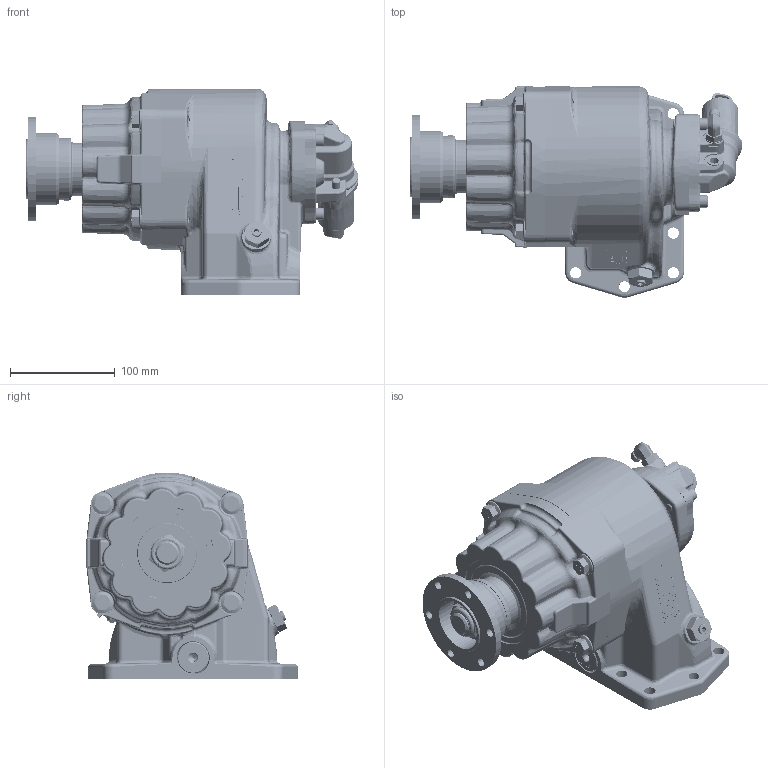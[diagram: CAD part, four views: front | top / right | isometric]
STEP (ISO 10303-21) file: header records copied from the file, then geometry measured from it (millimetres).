
FILE_DESCRIPTION(/* description */ ('PTO ASSEMBLY-871'),/* implementation_level */ '2;1');
FILE_NAME(/* name */ 'C:\CAD_Work\Designs\CHD\CHD-Unrestricted\WR-747 CAD DWG''S FOR FD\WIP\871-Series\STEP FILES & PICS\871-5AC.stp',/* time_stamp */ '2024-04-02T12:30:09+05:00',/* author */ ('GR00940517'),/* organization */ (''),/* preprocessor_version */ 'ST-DEVELOPER v18',/* originating_system */ 'Autodesk Inventor 2020',/* authorisation */ '');
FILE_SCHEMA (('AUTOMOTIVE_DESIGN { 1 0 10303 214 3 1 1 }'));
Products named in the file (25): 871-5AC; 1-P-816; 329463-12X; 34-P-143; 380123-12; 380124; 500897-5; 329724-1X; 3-P-1065; 22-P-112; 28-P-329; 9-P-99; 28-P-42; 378452-7; 378447-6; 379486; 379231; 379242; 21-P-932; 380563-14; 28-P-211; 380076-13; 379742; 380486; 68-P-51-1
Assembly tree (30 placements, depth 3):
  871-5AC
    1-P-816
    329463-12X
      34-P-143
      378447-6
      380123-12
      380124
      500897-5
    329724-1X
      3-P-1065
    22-P-112
    28-P-329
    9-P-99
    28-P-42
    378452-7
    378447-6  x3
    379486
    379231
    379242
    21-P-932
    380563-14  x4
    28-P-211
    380076-13
    379742
    380486
    68-P-51-1
Bounding box: 316.82 x 201.72 x 197.5 mm (x, y, z)
Volume: 2183276.9 mm3; surface area: 521322.9 mm2
Topology: 29 solids, 29 shells, 7651 faces, 19504 edges, 12115 vertices
Faces by surface type: plane 2871, bspline 2359, cylinder 1839, torus 305, cone 233, sphere 44
Full cylindrical faces by diameter (mm): 0.711 x1, 0.8 x1, 1.981 x1, 2.184 x2, 2.388 x1, 3.175 x10, 3.962 x1, 4.191 x1, 4.318 x1, 4.699 x2, 4.75 x1, 4.978 x1, 6.35 x4, 6.401 x3, 6.528 x1, 7.137 x1, 7.62 x1, 7.798 x5, 7.836 x12, 7.95 x1, 8.204 x6, 8.331 x1, 8.382 x1, 8.611 x1, 8.712 x3, 9.144 x2, 9.525 x12, 9.728 x1, 10.312 x6, 10.719 x8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
Entity records: 279166 total; most frequent: CARTESIAN_POINT 106741, ORIENTED_EDGE 37518, DIRECTION 29579, EDGE_CURVE 18759, VERTEX_POINT 11752, AXIS2_PLACEMENT_3D 10135, LINE 9309, VECTOR 9309
